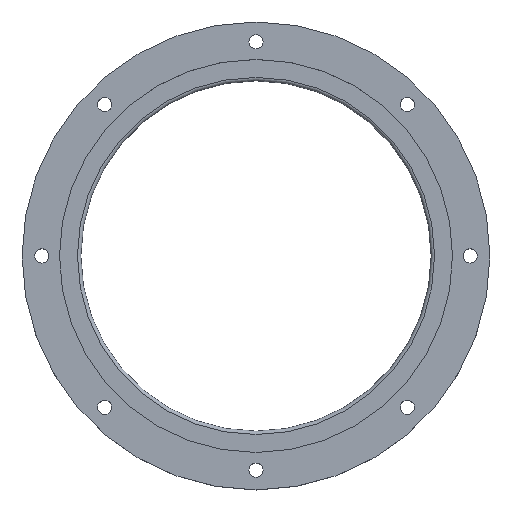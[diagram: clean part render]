
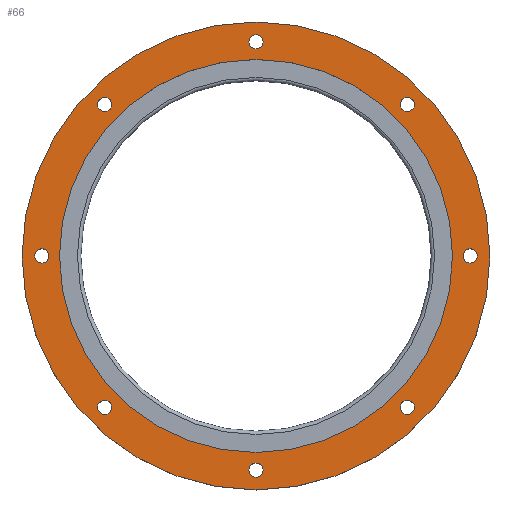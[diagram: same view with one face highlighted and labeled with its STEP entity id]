
A CAD part, top view. The second image highlights one B-rep face of the part: STEP entity #66.
In plain terms, the highlighted planar face has unit normal (0, 0, 1).
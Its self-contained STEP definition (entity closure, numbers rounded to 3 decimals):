
#66 = ADVANCED_FACE( '', ( #157, #158, #159, #160, #161, #162, #163, #164, #165, #166 ), #167, .F. );
#157 = FACE_BOUND( '', #308, .T. );
#158 = FACE_BOUND( '', #309, .T. );
#159 = FACE_BOUND( '', #310, .T. );
#160 = FACE_BOUND( '', #311, .T. );
#161 = FACE_BOUND( '', #312, .T. );
#162 = FACE_BOUND( '', #313, .T. );
#163 = FACE_BOUND( '', #314, .T. );
#164 = FACE_BOUND( '', #315, .T. );
#165 = FACE_OUTER_BOUND( '', #316, .T. );
#166 = FACE_BOUND( '', #317, .T. );
#167 = PLANE( '', #318 );
#308 = EDGE_LOOP( '', ( #463 ) );
#309 = EDGE_LOOP( '', ( #464 ) );
#310 = EDGE_LOOP( '', ( #465 ) );
#311 = EDGE_LOOP( '', ( #466 ) );
#312 = EDGE_LOOP( '', ( #467 ) );
#313 = EDGE_LOOP( '', ( #468 ) );
#314 = EDGE_LOOP( '', ( #469 ) );
#315 = EDGE_LOOP( '', ( #470 ) );
#316 = EDGE_LOOP( '', ( #471 ) );
#317 = EDGE_LOOP( '', ( #472 ) );
#318 = AXIS2_PLACEMENT_3D( '', #473, #474, #475 );
#463 = ORIENTED_EDGE( '', *, *, #655, .T. );
#464 = ORIENTED_EDGE( '', *, *, #656, .T. );
#465 = ORIENTED_EDGE( '', *, *, #657, .T. );
#466 = ORIENTED_EDGE( '', *, *, #658, .T. );
#467 = ORIENTED_EDGE( '', *, *, #659, .T. );
#468 = ORIENTED_EDGE( '', *, *, #646, .T. );
#469 = ORIENTED_EDGE( '', *, *, #660, .T. );
#470 = ORIENTED_EDGE( '', *, *, #661, .T. );
#471 = ORIENTED_EDGE( '', *, *, #649, .F. );
#472 = ORIENTED_EDGE( '', *, *, #662, .T. );
#473 = CARTESIAN_POINT( '', ( 0., 0., 25.4 ) );
#474 = DIRECTION( '', ( 0., 0., -1. ) );
#475 = DIRECTION( '', ( -1., 0., 0. ) );
#646 = EDGE_CURVE( '', #721, #721, #722, .T. );
#649 = EDGE_CURVE( '', #726, #726, #727, .T. );
#655 = EDGE_CURVE( '', #736, #736, #737, .T. );
#656 = EDGE_CURVE( '', #738, #738, #739, .T. );
#657 = EDGE_CURVE( '', #740, #740, #741, .T. );
#658 = EDGE_CURVE( '', #742, #742, #743, .T. );
#659 = EDGE_CURVE( '', #744, #744, #745, .T. );
#660 = EDGE_CURVE( '', #746, #746, #747, .T. );
#661 = EDGE_CURVE( '', #748, #748, #749, .T. );
#662 = EDGE_CURVE( '', #750, #750, #751, .T. );
#721 = VERTEX_POINT( '', #833 );
#722 = CIRCLE( '', #834, 3.324 );
#726 = VERTEX_POINT( '', #838 );
#727 = CIRCLE( '', #839, 109.538 );
#736 = VERTEX_POINT( '', #848 );
#737 = CIRCLE( '', #849, 3.324 );
#738 = VERTEX_POINT( '', #850 );
#739 = CIRCLE( '', #851, 3.324 );
#740 = VERTEX_POINT( '', #852 );
#741 = CIRCLE( '', #853, 3.324 );
#742 = VERTEX_POINT( '', #854 );
#743 = CIRCLE( '', #855, 3.324 );
#744 = VERTEX_POINT( '', #856 );
#745 = CIRCLE( '', #857, 3.324 );
#746 = VERTEX_POINT( '', #858 );
#747 = CIRCLE( '', #859, 3.324 );
#748 = VERTEX_POINT( '', #860 );
#749 = CIRCLE( '', #861, 3.324 );
#750 = VERTEX_POINT( '', #862 );
#751 = CIRCLE( '', #863, 92. );
#833 = CARTESIAN_POINT( '', ( 96.947, 0., 25.4 ) );
#834 = AXIS2_PLACEMENT_3D( '', #945, #946, #947 );
#838 = CARTESIAN_POINT( '', ( 109.538, 0., 25.4 ) );
#839 = AXIS2_PLACEMENT_3D( '', #951, #952, #953 );
#848 = CARTESIAN_POINT( '', ( -74.225, 70.902, 25.4 ) );
#849 = AXIS2_PLACEMENT_3D( '', #963, #964, #965 );
#850 = CARTESIAN_POINT( '', ( -74.225, -70.902, 25.4 ) );
#851 = AXIS2_PLACEMENT_3D( '', #966, #967, #968 );
#852 = CARTESIAN_POINT( '', ( -3.324, -100.27, 25.4 ) );
#853 = AXIS2_PLACEMENT_3D( '', #969, #970, #971 );
#854 = CARTESIAN_POINT( '', ( 67.578, -70.902, 25.4 ) );
#855 = AXIS2_PLACEMENT_3D( '', #972, #973, #974 );
#856 = CARTESIAN_POINT( '', ( -103.594, 0., 25.4 ) );
#857 = AXIS2_PLACEMENT_3D( '', #975, #976, #977 );
#858 = CARTESIAN_POINT( '', ( 67.578, 70.902, 25.4 ) );
#859 = AXIS2_PLACEMENT_3D( '', #978, #979, #980 );
#860 = CARTESIAN_POINT( '', ( -3.324, 100.27, 25.4 ) );
#861 = AXIS2_PLACEMENT_3D( '', #981, #982, #983 );
#862 = CARTESIAN_POINT( '', ( 92., 0., 25.4 ) );
#863 = AXIS2_PLACEMENT_3D( '', #984, #985, #986 );
#945 = CARTESIAN_POINT( '', ( 100.27, 0., 25.4 ) );
#946 = DIRECTION( '', ( 0., 0., -1. ) );
#947 = DIRECTION( '', ( -1., 0., 0. ) );
#951 = CARTESIAN_POINT( '', ( 0., 0., 25.4 ) );
#952 = DIRECTION( '', ( 0., 0., -1. ) );
#953 = DIRECTION( '', ( 1., 0., 0. ) );
#963 = CARTESIAN_POINT( '', ( -70.902, 70.902, 25.4 ) );
#964 = DIRECTION( '', ( 0., 0., -1. ) );
#965 = DIRECTION( '', ( -1., 0., 0. ) );
#966 = CARTESIAN_POINT( '', ( -70.902, -70.902, 25.4 ) );
#967 = DIRECTION( '', ( 0., 0., -1. ) );
#968 = DIRECTION( '', ( -1., 0., 0. ) );
#969 = CARTESIAN_POINT( '', ( 0., -100.27, 25.4 ) );
#970 = DIRECTION( '', ( 0., 0., -1. ) );
#971 = DIRECTION( '', ( -1., 0., 0. ) );
#972 = CARTESIAN_POINT( '', ( 70.902, -70.902, 25.4 ) );
#973 = DIRECTION( '', ( 0., 0., -1. ) );
#974 = DIRECTION( '', ( -1., 0., 0. ) );
#975 = CARTESIAN_POINT( '', ( -100.27, 0., 25.4 ) );
#976 = DIRECTION( '', ( 0., 0., -1. ) );
#977 = DIRECTION( '', ( -1., 0., 0. ) );
#978 = CARTESIAN_POINT( '', ( 70.902, 70.902, 25.4 ) );
#979 = DIRECTION( '', ( 0., 0., -1. ) );
#980 = DIRECTION( '', ( -1., 0., 0. ) );
#981 = CARTESIAN_POINT( '', ( 0., 100.27, 25.4 ) );
#982 = DIRECTION( '', ( 0., 0., -1. ) );
#983 = DIRECTION( '', ( -1., 0., 0. ) );
#984 = CARTESIAN_POINT( '', ( 0., 0., 25.4 ) );
#985 = DIRECTION( '', ( 0., 0., -1. ) );
#986 = DIRECTION( '', ( 1., 0., 0. ) );
